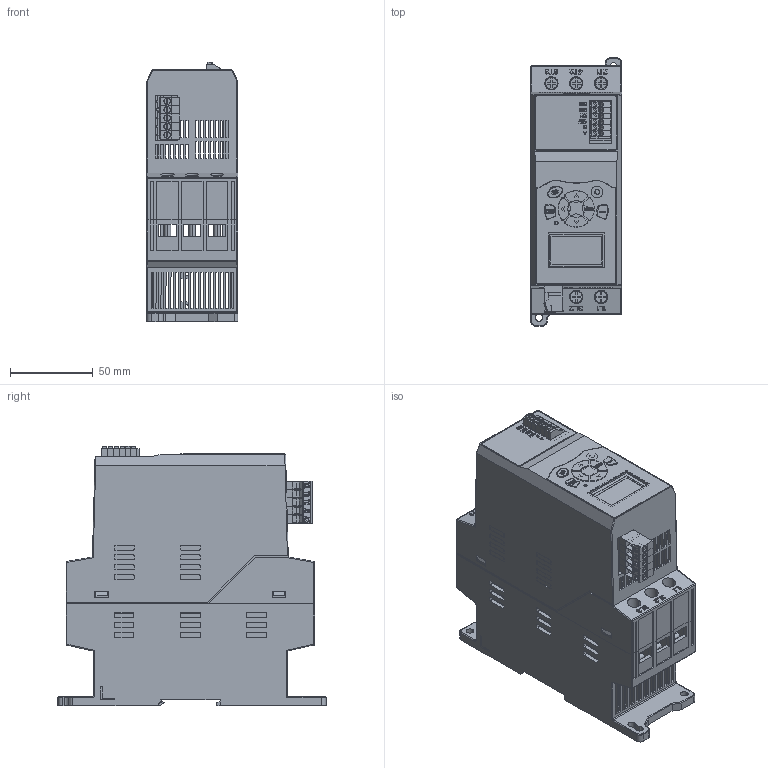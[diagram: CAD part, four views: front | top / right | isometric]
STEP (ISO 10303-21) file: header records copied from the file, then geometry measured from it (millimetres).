
FILE_DESCRIPTION (( 'STEP AP203' ), '1' );
FILE_NAME ('SBIM-0.55_1.6-04.STEP', '2025-02-18T11:16:08', ( '' ), ( '' ), 'SwSTEP 2.0', 'SolidWorks 2021', '' );
FILE_SCHEMA (( 'CONFIG_CONTROL_DESIGN' ));
Length unit declared in the file: millimetre
Products named in the file (35): Ëèöåâàÿ ïàíåëü; Êîííåêòîð 254900001; 抔樦憵 PL2D5B-5-508-05; ﾊ煇鳫 粢炅齏; Êðûøêà; 抔樦憵 3D5-00001; Ïëàòà ñèëîâûõ ââîäîâ_âûâîäîâ 8800-11-PCB00; Øèíà ñîåäèíèòåëüíàÿ ìàëàÿ 8800-11-100; 扱闀罻 6-6-80001; Êíîïêà ñòîïà; Ëèöåâàÿ ôàëüøïàíåëü; 扻豵鵨; Îñíîâà ïëàòû 8800-11-PCB00; Êëåììà ñèëîâàÿ MCI04422-60A; Äèñïëåé 8800-11 12864COG; Îñíîâà ïëàòû 8800-11-PCB-1; Êëåììíàÿ êîëîäêà 3D5-60001; Ïàíåëü óïðàâëåíèÿ; ﾄ濵; 趶槶 瀇僗 8800-11-PCB-1; Îñíîâà ïëàòû 8800-11-PCB-2; RJ45; Âèíò ñïåöèàëüíûé ñ íåâûïàäàþùåé øàéáîé Ì4õ12 11-0002; Êëåììíàÿ êîëîäêà 8800-508-5P-00 Ï; Êíîïêà ïóñêà; ﾏ褊鶴 1D5-000001; SBIM-0.55_1.6-04; Ïëàòà ïàíåëè óïðàâëåíèÿ 8800-11-PCB-200; Øèíà ñîåäèíèòåëüíàÿ 8800-11-W; Êîííåêòîð 2540001; Øèëüä ðåëå; 扻豵鵨 膰臇樏襜譇 2540001; Íîæêà êîííåêòîðà 2540001; Çàùåëêà DIN-ðåéêè; 抔樦憵 3D-00001
Assembly tree (78 placements, depth 5):
  SBIM-0.55_1.6-04
    趶槶 瀇僗 8800-11-PCB-1
      Îñíîâà ïëàòû 8800-11-PCB-1
      Êîííåêòîð 254900001  x10
      Êëåììíàÿ êîëîäêà 8800-508-5P-00 Ï
      Ïëàòà ïàíåëè óïðàâëåíèÿ 8800-11-PCB-200
        Îñíîâà ïëàòû 8800-11-PCB-2
        Äèñïëåé 8800-11 12864COG
        扱闀罻 6-6-80001  x8
        Êëåììíàÿ êîëîäêà 3D5-60001
          抔樦憵 3D5-00001  x3
          抔樦憵 3D-00001  x3
          ﾏ褊鶴 1D5-000001
        RJ45
        Êîííåêòîð 2540001  x10
          扻豵鵨 膰臇樏襜譇 2540001
          Íîæêà êîííåêòîðà 2540001
      Ïëàòà ñèëîâûõ ââîäîâ_âûâîäîâ 8800-11-PCB00
        Îñíîâà ïëàòû 8800-11-PCB00
        Êëåììà ñèëîâàÿ MCI04422-60A  x6
      抔樦憵 PL2D5B-5-508-05  x5
      Âèíò ñïåöèàëüíûé ñ íåâûïàäàþùåé øàéáîé Ì4õ12 11-0002  x6
      Øèíà ñîåäèíèòåëüíàÿ 8800-11-W
      Øèíà ñîåäèíèòåëüíàÿ ìàëàÿ 8800-11-100
    Ëèöåâàÿ ôàëüøïàíåëü
    Ïàíåëü óïðàâëåíèÿ
      Ëèöåâàÿ ïàíåëü
      Êíîïêà ñòîïà
      Êíîïêà ïóñêà
    Øèëüä ðåëå
    扻豵鵨
      ﾄ濵
      ﾊ煇鳫 粢炅齏
      Êðûøêà
      Çàùåëêà DIN-ðåéêè
Bounding box: 55.3 x 162 x 156.7 mm (x, y, z)
Volume: 248841.2 mm3; surface area: 268245.1 mm2
Topology: 89 solids, 89 shells, 6117 faces, 16823 edges, 11140 vertices
Faces by surface type: plane 3869, cylinder 1761, bspline 428, torus 47, cone 12
Entity records: 176254 total; most frequent: CARTESIAN_POINT 60387, ORIENTED_EDGE 24830, DIRECTION 19854, EDGE_CURVE 12415, VERTEX_POINT 8234, LINE 8190, VECTOR 8190, AXIS2_PLACEMENT_3D 5832
